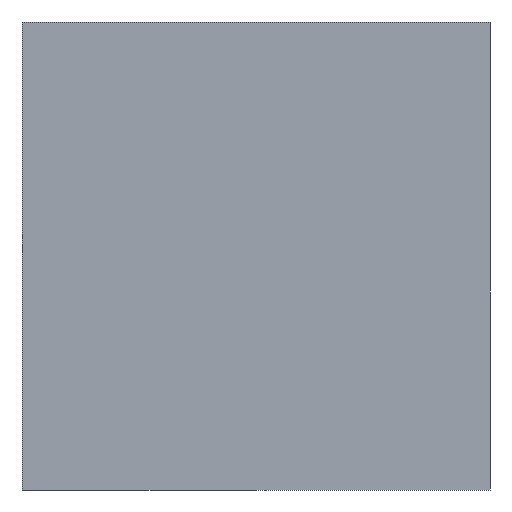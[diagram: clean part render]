
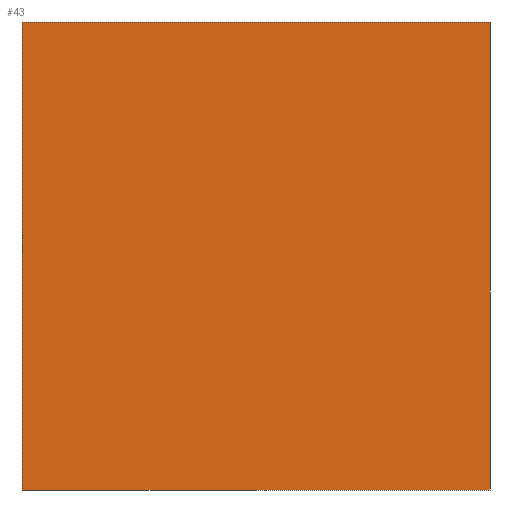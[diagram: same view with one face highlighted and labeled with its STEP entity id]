
A CAD part, left-side view. The second image highlights one B-rep face of the part: STEP entity #43.
In plain terms, the highlighted planar face has unit normal (-1, 0, 0).
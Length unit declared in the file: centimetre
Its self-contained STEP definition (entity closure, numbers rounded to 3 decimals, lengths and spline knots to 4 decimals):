
#2 = CARTESIAN_POINT ( 'NONE',  ( 0., 1000., 1000. ) ) ;
#13 = CARTESIAN_POINT ( 'NONE',  ( 0., 1000., 0. ) ) ;
#26 = ORIENTED_EDGE ( 'NONE', *, *, #104, .F. ) ;
#41 = DIRECTION ( 'NONE',  ( 0., 0., -1. ) ) ;
#43 = ADVANCED_FACE ( 'NONE', ( #130 ), #402, .F. ) ;
#51 = CARTESIAN_POINT ( 'NONE',  ( 0., 0., 1000. ) ) ;
#67 = DIRECTION ( 'NONE',  ( 1., 0., 0. ) ) ;
#77 = VECTOR ( 'NONE', #243, 100. ) ;
#81 = CARTESIAN_POINT ( 'NONE',  ( 0., 0., 1000. ) ) ;
#91 = EDGE_LOOP ( 'NONE', ( #332, #174, #26, #370 ) ) ;
#98 = EDGE_CURVE ( 'NONE', #330, #119, #240, .T. ) ;
#99 = VERTEX_POINT ( 'NONE', #190 ) ;
#104 = EDGE_CURVE ( 'NONE', #330, #362, #156, .T. ) ;
#105 = DIRECTION ( 'NONE',  ( 0., -1., 0. ) ) ;
#119 = VERTEX_POINT ( 'NONE', #218 ) ;
#130 = FACE_OUTER_BOUND ( 'NONE', #91, .T. ) ;
#152 = CARTESIAN_POINT ( 'NONE',  ( 0., 1000., 1000. ) ) ;
#156 = LINE ( 'NONE', #2, #77 ) ;
#166 = EDGE_CURVE ( 'NONE', #362, #99, #258, .T. ) ;
#174 = ORIENTED_EDGE ( 'NONE', *, *, #166, .F. ) ;
#190 = CARTESIAN_POINT ( 'NONE',  ( 0., 0., 0. ) ) ;
#218 = CARTESIAN_POINT ( 'NONE',  ( 0., 1000., 0. ) ) ;
#227 = AXIS2_PLACEMENT_3D ( 'NONE', #315, #67, #374 ) ;
#236 = VECTOR ( 'NONE', #41, 100. ) ;
#240 = LINE ( 'NONE', #152, #241 ) ;
#241 = VECTOR ( 'NONE', #377, 100. ) ;
#243 = DIRECTION ( 'NONE',  ( 0., -1., 0. ) ) ;
#258 = LINE ( 'NONE', #81, #236 ) ;
#274 = EDGE_CURVE ( 'NONE', #119, #99, #287, .T. ) ;
#287 = LINE ( 'NONE', #13, #378 ) ;
#315 = CARTESIAN_POINT ( 'NONE',  ( 0., 1000., 1000. ) ) ;
#330 = VERTEX_POINT ( 'NONE', #334 ) ;
#332 = ORIENTED_EDGE ( 'NONE', *, *, #274, .T. ) ;
#334 = CARTESIAN_POINT ( 'NONE',  ( 0., 1000., 1000. ) ) ;
#362 = VERTEX_POINT ( 'NONE', #51 ) ;
#370 = ORIENTED_EDGE ( 'NONE', *, *, #98, .T. ) ;
#374 = DIRECTION ( 'NONE',  ( 0., 0., -1. ) ) ;
#377 = DIRECTION ( 'NONE',  ( 0., 0., -1. ) ) ;
#378 = VECTOR ( 'NONE', #105, 100. ) ;
#402 = PLANE ( 'NONE',  #227 ) ;
